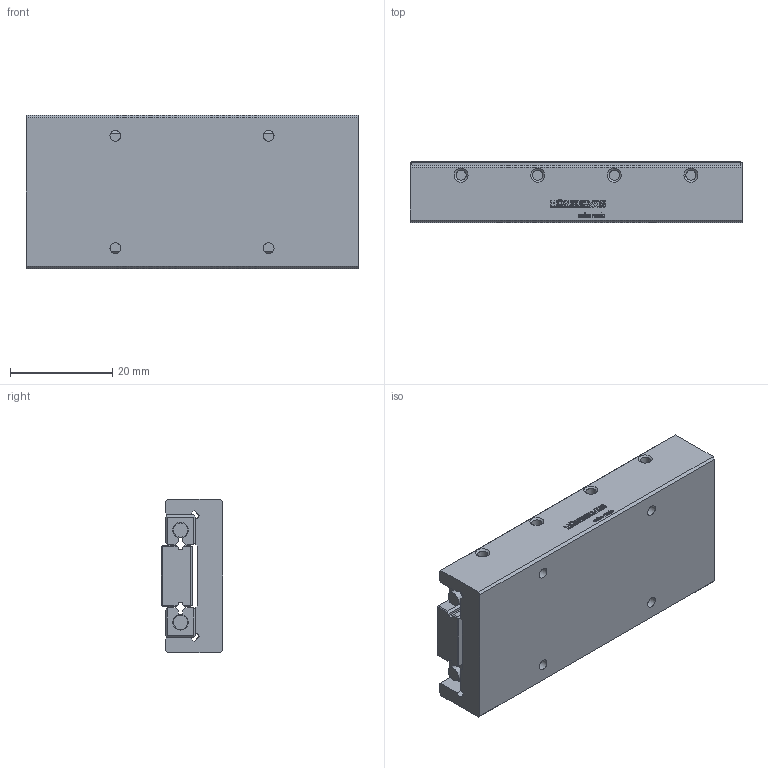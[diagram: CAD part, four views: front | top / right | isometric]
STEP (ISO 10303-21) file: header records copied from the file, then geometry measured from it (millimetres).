
FILE_DESCRIPTION(/* description */ ('STEP AP214'),/* implementation_level */ '2;1');
FILE_NAME(/* name */ 'ND 2-65.40(0)',/* time_stamp */ '2025-04-22T17:44:01+02:00',/* author */ ('License CC BY-ND 4.0'),/* organization */ ('CADENAS'),/* preprocessor_version */ 'ST-DEVELOPER v19.3',/* originating_system */ 'PARTsolutions',/* authorisation */ ' ');
FILE_SCHEMA (('AUTOMOTIVE_DESIGN {1 0 10303 214 3 1 1}'));
Length unit declared in the file: millimetre
Products named in the file (4): ND 2-65.40(0); ND 2-65.40+SQ+OF_(0)_1; ND 2-65.40+SQ+OF_(0)_2; ND 2-65.40+SQ+OF_(0)_3
Assembly tree (4 placements, depth 2):
  ND 2-65.40(0)
    ND 2-65.40+SQ+OF_(0)_1
    ND 2-65.40+SQ+OF_(0)_2
    ND 2-65.40+SQ+OF_(0)_3  x2
Bounding box: 65 x 12 x 30 mm (x, y, z)
Volume: 19773.8 mm3; surface area: 13048.2 mm2
Topology: 4 solids, 4 shells, 649 faces, 1778 edges, 1176 vertices
Faces by surface type: cylinder 326, plane 295, cone 24, torus 4
Full cylindrical faces by diameter (mm): 1.49 x4, 1.977 x4, 2 x8, 2.113 x4, 4.5 x8, 4.917 x4
Entity records: 19379 total; most frequent: DIRECTION 3500, CARTESIAN_POINT 3332, ORIENTED_EDGE 3248, EDGE_CURVE 1624, AXIS2_PLACEMENT_3D 1270, VERTEX_POINT 1102, LINE 960, VECTOR 960
